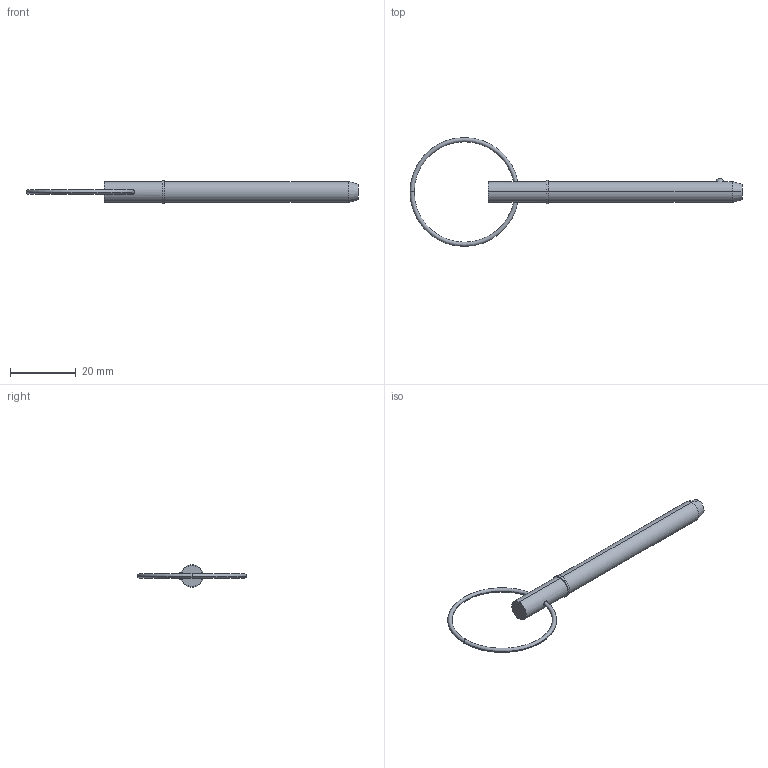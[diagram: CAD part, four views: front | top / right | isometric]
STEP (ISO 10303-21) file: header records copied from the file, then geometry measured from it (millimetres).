
FILE_DESCRIPTION (( 'STEP AP203' ), '1' );
FILE_NAME ('33014.W2520.step', '2024-11-04T08:23:43', ( '' ), ( '' ), 'SwSTEP 2.0', 'SolidWorks 2019', '' );
FILE_SCHEMA (( 'CONFIG_CONTROL_DESIGN' ));
Length unit declared in the file: millimetre
Products named in the file (3): Part2_33014.W2520; 33014.W2520; Part1_33014.W2520
Assembly tree (2 placements, depth 2):
  33014.W2520
    Part1_33014.W2520
    Part2_33014.W2520
Bounding box: 100.74 x 33.02 x 6.99 mm (x, y, z)
Volume: 2538 mm3; surface area: 2023.3 mm2
Topology: 2 solids, 2 shells, 22 faces, 43 edges, 26 vertices
Faces by surface type: torus 8, cylinder 6, plane 4, sphere 2, cone 2
Entity records: 975 total; most frequent: CARTESIAN_POINT 198, DIRECTION 120, ORIENTED_EDGE 86, AXIS2_PLACEMENT_3D 56, EDGE_CURVE 43, CIRCLE 29, EDGE_LOOP 27, VERTEX_POINT 26
